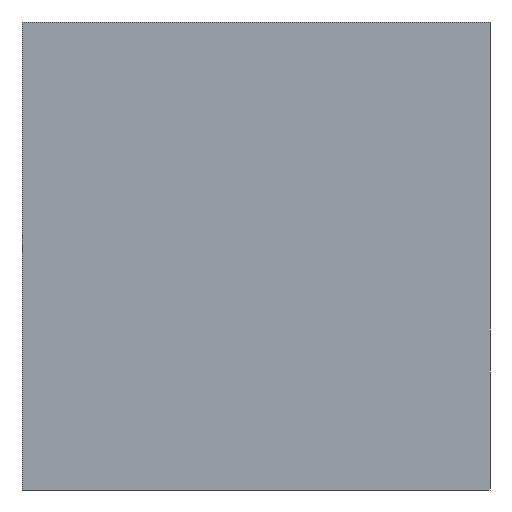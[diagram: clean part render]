
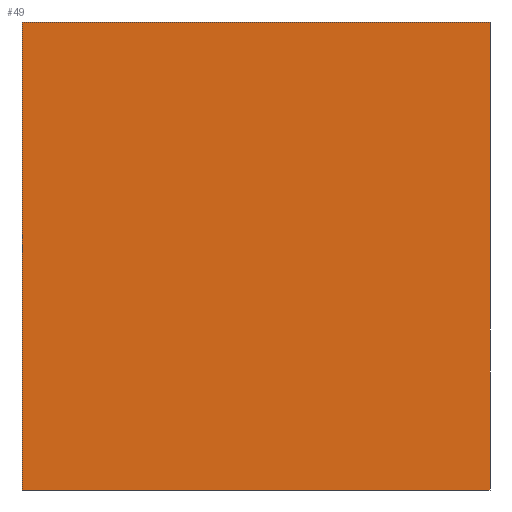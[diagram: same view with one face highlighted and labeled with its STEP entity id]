
A CAD part, front view. The second image highlights one B-rep face of the part: STEP entity #49.
In plain terms, the highlighted planar face has unit normal (0, -1, 0).
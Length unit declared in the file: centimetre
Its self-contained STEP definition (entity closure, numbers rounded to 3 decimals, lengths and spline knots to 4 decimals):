
#14 = VECTOR ( 'NONE', #402, 100. ) ;
#17 = DIRECTION ( 'NONE',  ( 0., 0., -1. ) ) ;
#21 = ORIENTED_EDGE ( 'NONE', *, *, #249, .T. ) ;
#34 = CARTESIAN_POINT ( 'NONE',  ( 0., 0., 1000. ) ) ;
#39 = DIRECTION ( 'NONE',  ( 1., 0., 0. ) ) ;
#49 = ADVANCED_FACE ( 'NONE', ( #271 ), #426, .F. ) ;
#58 = LINE ( 'NONE', #96, #14 ) ;
#96 = CARTESIAN_POINT ( 'NONE',  ( 0., 0., 1000. ) ) ;
#99 = LINE ( 'NONE', #440, #331 ) ;
#100 = ORIENTED_EDGE ( 'NONE', *, *, #133, .F. ) ;
#116 = DIRECTION ( 'NONE',  ( 0., 0., -1. ) ) ;
#130 = VERTEX_POINT ( 'NONE', #226 ) ;
#133 = EDGE_CURVE ( 'NONE', #250, #130, #58, .T. ) ;
#137 = EDGE_CURVE ( 'NONE', #130, #378, #99, .T. ) ;
#143 = ORIENTED_EDGE ( 'NONE', *, *, #137, .F. ) ;
#151 = CARTESIAN_POINT ( 'NONE',  ( 1000., 0., 0. ) ) ;
#164 = CARTESIAN_POINT ( 'NONE',  ( 0., 0., 1000. ) ) ;
#226 = CARTESIAN_POINT ( 'NONE',  ( 1000., 0., 1000. ) ) ;
#249 = EDGE_CURVE ( 'NONE', #250, #383, #313, .T. ) ;
#250 = VERTEX_POINT ( 'NONE', #34 ) ;
#257 = EDGE_CURVE ( 'NONE', #383, #378, #355, .T. ) ;
#271 = FACE_OUTER_BOUND ( 'NONE', #340, .T. ) ;
#278 = CARTESIAN_POINT ( 'NONE',  ( 0., 0., 0. ) ) ;
#279 = AXIS2_PLACEMENT_3D ( 'NONE', #164, #420, #359 ) ;
#280 = ORIENTED_EDGE ( 'NONE', *, *, #257, .T. ) ;
#306 = CARTESIAN_POINT ( 'NONE',  ( 0., 0., 0. ) ) ;
#313 = LINE ( 'NONE', #425, #432 ) ;
#331 = VECTOR ( 'NONE', #17, 100. ) ;
#340 = EDGE_LOOP ( 'NONE', ( #280, #143, #100, #21 ) ) ;
#355 = LINE ( 'NONE', #278, #366 ) ;
#359 = DIRECTION ( 'NONE',  ( 0., 0., 1. ) ) ;
#366 = VECTOR ( 'NONE', #39, 100. ) ;
#378 = VERTEX_POINT ( 'NONE', #151 ) ;
#383 = VERTEX_POINT ( 'NONE', #306 ) ;
#402 = DIRECTION ( 'NONE',  ( 1., 0., 0. ) ) ;
#420 = DIRECTION ( 'NONE',  ( 0., 1., 0. ) ) ;
#425 = CARTESIAN_POINT ( 'NONE',  ( 0., 0., 1000. ) ) ;
#426 = PLANE ( 'NONE',  #279 ) ;
#432 = VECTOR ( 'NONE', #116, 100. ) ;
#440 = CARTESIAN_POINT ( 'NONE',  ( 1000., 0., 1000. ) ) ;
